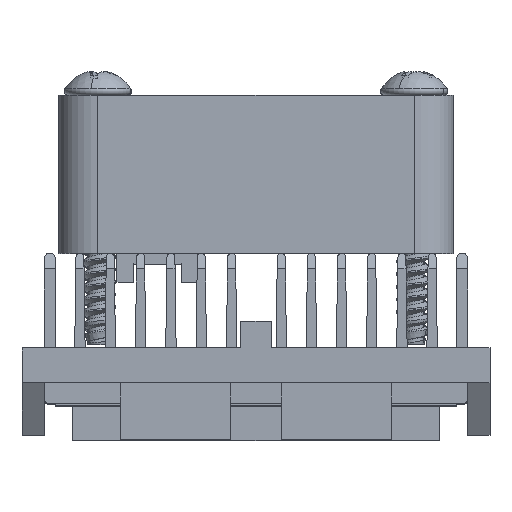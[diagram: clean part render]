
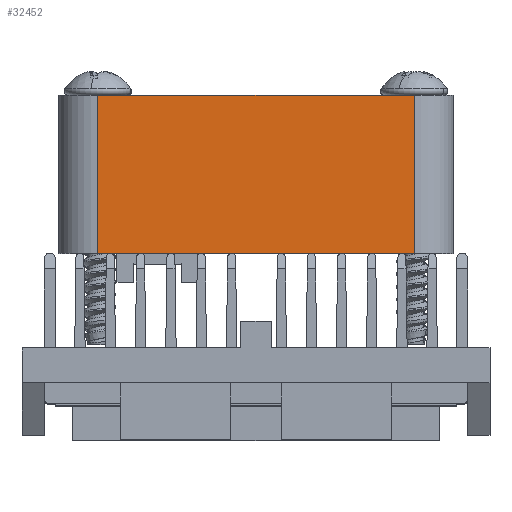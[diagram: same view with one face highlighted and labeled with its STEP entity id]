
A CAD part, top view. The second image highlights one B-rep face of the part: STEP entity #32452.
In plain terms, the highlighted planar face has unit normal (0, 0, 1).
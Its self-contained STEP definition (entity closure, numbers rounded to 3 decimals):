
#818 = CARTESIAN_POINT ( 'NONE',  ( -10., 19.5, 12.5 ) ) ;
#1228 = CARTESIAN_POINT ( 'NONE',  ( 10., 19.5, 12.5 ) ) ;
#3170 = VERTEX_POINT ( 'NONE', #16144 ) ;
#5786 = CARTESIAN_POINT ( 'NONE',  ( 10., 19.5, 12.5 ) ) ;
#7995 = EDGE_CURVE ( 'NONE', #31842, #3170, #43873, .T. ) ;
#8951 = CARTESIAN_POINT ( 'NONE',  ( -10., 19.5, 12.5 ) ) ;
#9167 = ORIENTED_EDGE ( 'NONE', *, *, #59178, .F. ) ;
#9975 = DIRECTION ( 'NONE',  ( 0., 0., -1. ) ) ;
#11619 = LINE ( 'NONE', #5786, #15714 ) ;
#12409 = VECTOR ( 'NONE', #21699, 1000. ) ;
#12797 = EDGE_CURVE ( 'NONE', #31814, #63540, #63499, .T. ) ;
#15714 = VECTOR ( 'NONE', #57832, 1000. ) ;
#16144 = CARTESIAN_POINT ( 'NONE',  ( 10., 9.5, 12.5 ) ) ;
#18235 = PLANE ( 'NONE',  #34133 ) ;
#21097 = CARTESIAN_POINT ( 'NONE',  ( 10., 19.5, 12.5 ) ) ;
#21699 = DIRECTION ( 'NONE',  ( 0., -1., 0. ) ) ;
#22115 = DIRECTION ( 'NONE',  ( 1., 0., 0. ) ) ;
#24374 = FACE_OUTER_BOUND ( 'NONE', #63256, .T. ) ;
#24972 = VECTOR ( 'NONE', #22115, 1000. ) ;
#31814 = VERTEX_POINT ( 'NONE', #8951 ) ;
#31842 = VERTEX_POINT ( 'NONE', #45975 ) ;
#32452 = ADVANCED_FACE ( 'NONE', ( #24374 ), #18235, .F. ) ;
#34133 = AXIS2_PLACEMENT_3D ( 'NONE', #34644, #9975, #40853 ) ;
#34644 = CARTESIAN_POINT ( 'NONE',  ( 10., 19.5, 12.5 ) ) ;
#40853 = DIRECTION ( 'NONE',  ( -1., 0., 0. ) ) ;
#43527 = DIRECTION ( 'NONE',  ( 1., 0., 0. ) ) ;
#43873 = LINE ( 'NONE', #48620, #43920 ) ;
#43920 = VECTOR ( 'NONE', #43527, 1000. ) ;
#45975 = CARTESIAN_POINT ( 'NONE',  ( -10., 9.5, 12.5 ) ) ;
#48620 = CARTESIAN_POINT ( 'NONE',  ( 10., 9.5, 12.5 ) ) ;
#54750 = ORIENTED_EDGE ( 'NONE', *, *, #7995, .T. ) ;
#57832 = DIRECTION ( 'NONE',  ( 0., -1., 0. ) ) ;
#58760 = EDGE_CURVE ( 'NONE', #31814, #31842, #64783, .T. ) ;
#59178 = EDGE_CURVE ( 'NONE', #63540, #3170, #11619, .T. ) ;
#59645 = ORIENTED_EDGE ( 'NONE', *, *, #12797, .F. ) ;
#60946 = ORIENTED_EDGE ( 'NONE', *, *, #58760, .T. ) ;
#63256 = EDGE_LOOP ( 'NONE', ( #54750, #9167, #59645, #60946 ) ) ;
#63499 = LINE ( 'NONE', #1228, #24972 ) ;
#63540 = VERTEX_POINT ( 'NONE', #21097 ) ;
#64783 = LINE ( 'NONE', #818, #12409 ) ;
